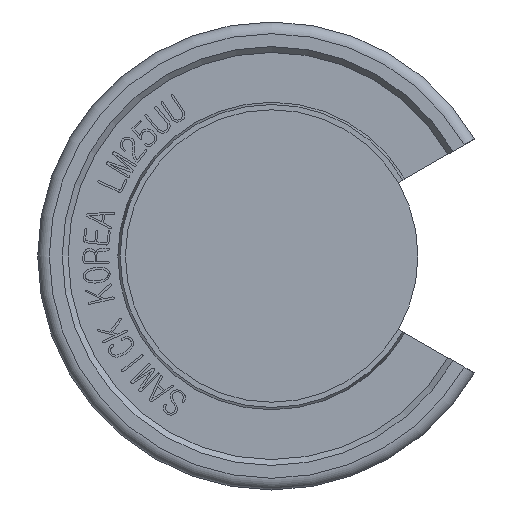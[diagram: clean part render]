
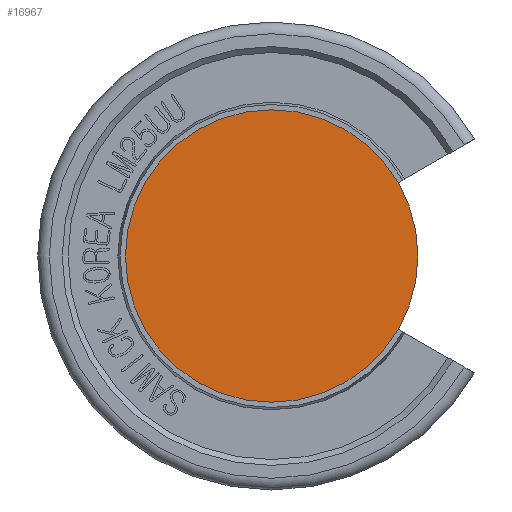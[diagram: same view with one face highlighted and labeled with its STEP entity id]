
A CAD part, front view. The second image highlights one B-rep face of the part: STEP entity #16967.
In plain terms, the highlighted planar face has unit normal (0, -1, 0).
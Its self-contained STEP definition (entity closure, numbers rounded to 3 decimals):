
#53=CIRCLE('',#17260,12.5);
#329=PLANE('',#17262);
#1184=FACE_OUTER_BOUND('',#2086,.T.);
#2086=EDGE_LOOP('',(#14629));
#7337=VERTEX_POINT('',#29461);
#9779=EDGE_CURVE('',#7337,#7337,#53,.T.);
#14629=ORIENTED_EDGE('',*,*,#9779,.F.);
#16967=ADVANCED_FACE('',(#1184),#329,.T.);
#17260=AXIS2_PLACEMENT_3D('',#29463,#18995,#18996);
#17262=AXIS2_PLACEMENT_3D('',#29465,#18999,#19000);
#18995=DIRECTION('center_axis',(0.,1.,0.));
#18996=DIRECTION('ref_axis',(1.,0.,0.));
#18999=DIRECTION('center_axis',(0.,-1.,0.));
#19000=DIRECTION('ref_axis',(0.,0.,-1.));
#29461=CARTESIAN_POINT('',(-12.5,-54.,0.));
#29463=CARTESIAN_POINT('Origin',(0.,-54.,0.));
#29465=CARTESIAN_POINT('Origin',(0.,-54.,0.));
